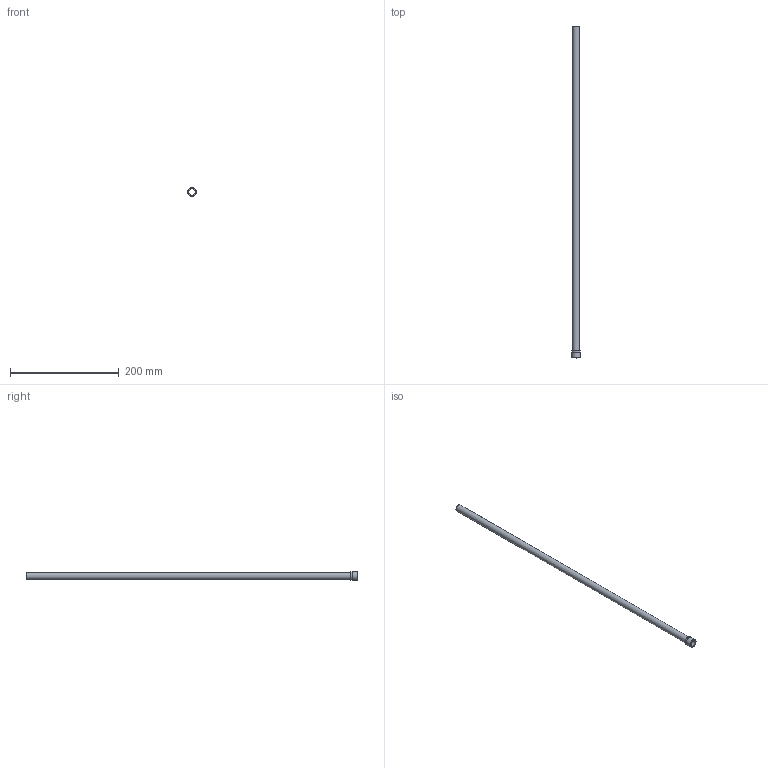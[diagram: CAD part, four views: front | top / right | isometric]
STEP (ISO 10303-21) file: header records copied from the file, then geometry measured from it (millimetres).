
FILE_DESCRIPTION(/* description */ (''),/* implementation_level */ '2;1');
FILE_NAME(/* name */ 'C:/Users/drich/Desktop/JHF500T-24 v1.step',/* time_stamp */ '2020-01-02T20:03:50-06:00',/* author */ (''),/* organization */ (''),/* preprocessor_version */ 'ST-DEVELOPER v18',/* originating_system */ 'Autodesk Translation Framework v8.12.0.6',/* authorisation */ '');
FILE_SCHEMA (('AUTOMOTIVE_DESIGN { 1 0 10303 214 3 1 1 }'));
Length unit declared in the file: inch
Products named in the file (1): JHF500T-24
Bounding box: 15.93 x 609.6 x 15.93 mm (x, y, z)
Volume: 17258.4 mm3; surface area: 46230.8 mm2
Topology: 1 solids, 1 shells, 10 faces, 24 edges, 18 vertices
Faces by surface type: cylinder 4, plane 4, cone 1, torus 1
Full cylindrical faces by diameter (mm): 11.278 x1, 12.7 x1, 15.763 x1, 15.926 x1
Entity records: 354 total; most frequent: DIRECTION 65, CARTESIAN_POINT 53, ORIENTED_EDGE 48, AXIS2_PLACEMENT_3D 30, EDGE_CURVE 24, CIRCLE 19, VERTEX_POINT 18, EDGE_LOOP 14
